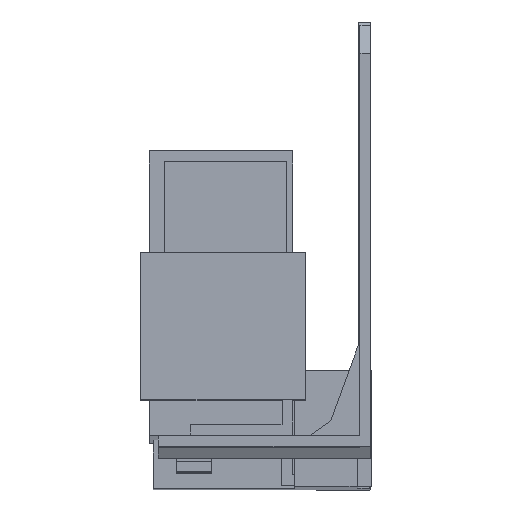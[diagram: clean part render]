
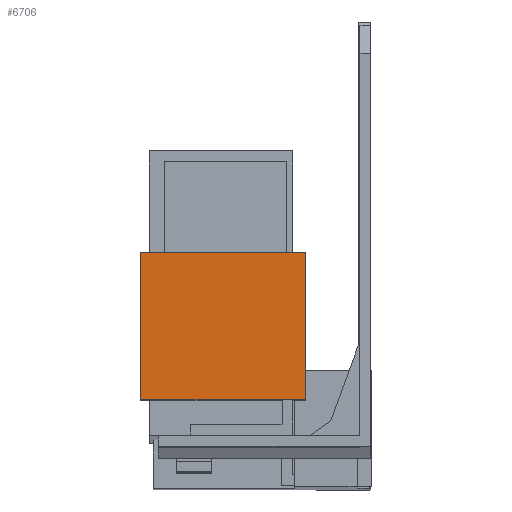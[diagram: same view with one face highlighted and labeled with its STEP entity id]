
A CAD part, front view. The second image highlights one B-rep face of the part: STEP entity #6706.
In plain terms, the highlighted planar face has unit normal (0, -1, 0.003).
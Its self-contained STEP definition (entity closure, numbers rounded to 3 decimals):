
#41 = EDGE_CURVE ( 'NONE', #1395, #1559, #6089, .T. ) ;
#102 = EDGE_CURVE ( 'NONE', #1395, #1524, #6152, .T. ) ;
#314 = EDGE_CURVE ( 'NONE', #1559, #1523, #6381, .T. ) ;
#477 = AXIS2_PLACEMENT_3D ( 'NONE', #2789, #2795, #2796 ) ;
#787 = EDGE_CURVE ( 'NONE', #1524, #1523, #3417, .T. ) ;
#1259 = CARTESIAN_POINT ( 'NONE',  ( -9.3, -29.009, -40.322 ) ) ;
#1335 = CARTESIAN_POINT ( 'NONE',  ( -9.3, -29.009, -40.322 ) ) ;
#1338 = DIRECTION ( 'NONE',  ( 0., 0.003, 1. ) ) ;
#1395 = VERTEX_POINT ( 'NONE', #4632 ) ;
#1408 = DIRECTION ( 'NONE',  ( -1., 0., 0. ) ) ;
#1523 = VERTEX_POINT ( 'NONE', #4658 ) ;
#1524 = VERTEX_POINT ( 'NONE', #4659 ) ;
#1559 = VERTEX_POINT ( 'NONE', #4694 ) ;
#1938 = CARTESIAN_POINT ( 'NONE',  ( -9.3, -28.952, -19.322 ) ) ;
#1939 = DIRECTION ( 'NONE',  ( -1., 0., 0. ) ) ;
#2355 = EDGE_LOOP ( 'NONE', ( #5953, #5954, #5955, #5956 ) ) ;
#2786 = PLANE ( 'NONE',  #477 ) ;
#2789 = CARTESIAN_POINT ( 'NONE',  ( -9.3, -29.009, -40.322 ) ) ;
#2795 = DIRECTION ( 'NONE',  ( 0., -1., 0.003 ) ) ;
#2796 = DIRECTION ( 'NONE',  ( 1., 0., 0. ) ) ;
#3417 = LINE ( 'NONE', #4563, #3418 ) ;
#3418 = VECTOR ( 'NONE', #4564, 1000. ) ;
#3853 = FACE_OUTER_BOUND ( 'NONE', #2355, .T. ) ;
#4563 = CARTESIAN_POINT ( 'NONE',  ( -32.7, -29.009, -40.322 ) ) ;
#4564 = DIRECTION ( 'NONE',  ( 0., 0.003, 1. ) ) ;
#4632 = CARTESIAN_POINT ( 'NONE',  ( -9.3, -29.009, -40.322 ) ) ;
#4658 = CARTESIAN_POINT ( 'NONE',  ( -32.7, -28.952, -19.322 ) ) ;
#4659 = CARTESIAN_POINT ( 'NONE',  ( -32.7, -29.009, -40.322 ) ) ;
#4694 = CARTESIAN_POINT ( 'NONE',  ( -9.3, -28.952, -19.322 ) ) ;
#5953 = ORIENTED_EDGE ( 'NONE', *, *, #314, .T. ) ;
#5954 = ORIENTED_EDGE ( 'NONE', *, *, #787, .F. ) ;
#5955 = ORIENTED_EDGE ( 'NONE', *, *, #102, .F. ) ;
#5956 = ORIENTED_EDGE ( 'NONE', *, *, #41, .T. ) ;
#6089 = LINE ( 'NONE', #1335, #6094 ) ;
#6094 = VECTOR ( 'NONE', #1338, 1000. ) ;
#6152 = LINE ( 'NONE', #1259, #6160 ) ;
#6160 = VECTOR ( 'NONE', #1408, 1000. ) ;
#6381 = LINE ( 'NONE', #1938, #6382 ) ;
#6382 = VECTOR ( 'NONE', #1939, 1000. ) ;
#6706 = ADVANCED_FACE ( 'NONE', ( #3853 ), #2786, .T. ) ;
